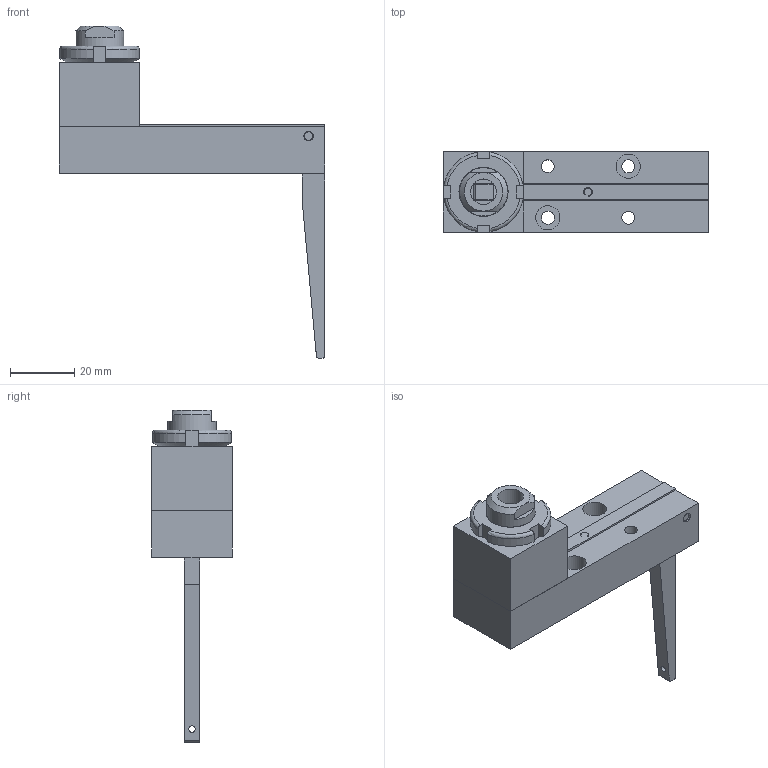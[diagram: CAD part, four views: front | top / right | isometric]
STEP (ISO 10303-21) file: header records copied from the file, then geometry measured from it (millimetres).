
FILE_DESCRIPTION(/* description */ (''),/* implementation_level */ '2;1');
FILE_NAME(/* name */ 'C:\Local Work Area\Progetti\AP\CALIBRI\18X.00 BILANCINO H60\187.00.stp',/* time_stamp */ '2015-05-07T16:15:25+02:00',/* author */ ('CAD5'),/* organization */ (''),/* preprocessor_version */ 'ST-DEVELOPER v15.2',/* originating_system */ 'Autodesk Inventor 2014',/* authorisation */ '0 mm^3');
FILE_SCHEMA (('AUTOMOTIVE_DESIGN { 1 0 10303 214 3 1 1 }'));
Length unit declared in the file: millimetre
Products named in the file (9): 182.02; 03.56; 186.01; Ghiera SKF M15x1 KM_2; ISO 2338 - 3  x 24 - A; UNI 5931 - M 4 x  16 - 0,7 - 13,9; D10320; 183.02; 18x.00
Bounding box: 82.5 x 25 x 103.25 mm (x, y, z)
Volume: 41836 mm3; surface area: 22736.9 mm2
Topology: 11 solids, 11 shells, 192 faces, 457 edges, 296 vertices
Faces by surface type: plane 98, cylinder 53, cone 23, torus 18
Full cylindrical faces by diameter (mm): 2.013 x1, 2.3 x1, 2.7 x1, 3 x6, 3.242 x4, 4 x6, 4.1 x6, 7 x4, 7.5 x6, 8 x1, 13.917 x1, 15 x2
Entity records: 4362 total; most frequent: CARTESIAN_POINT 896, DIRECTION 711, ORIENTED_EDGE 586, EDGE_CURVE 293, AXIS2_PLACEMENT_3D 289, EDGE_LOOP 237, VERTEX_POINT 220, ADVANCED_FACE 147
